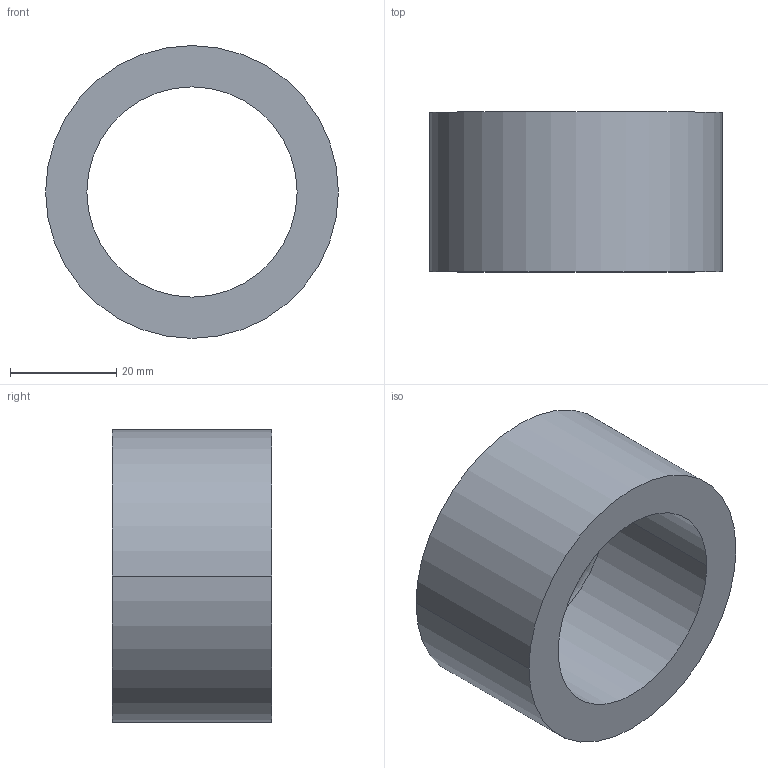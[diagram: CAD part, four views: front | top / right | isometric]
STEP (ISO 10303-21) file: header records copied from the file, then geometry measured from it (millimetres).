
FILE_DESCRIPTION (( 'STEP AP203' ), '1' );
FILE_NAME ('30800.WPP55L39.5.step', '2019-01-23T22:55:19', ( '' ), ( '' ), 'SwSTEP 2.0', 'SolidWorks 2017', '' );
FILE_SCHEMA (( 'CONFIG_CONTROL_DESIGN' ));
Length unit declared in the file: millimetre
Products named in the file (1): 30800.WPP55L39.5
Bounding box: 55 x 30 x 55 mm (x, y, z)
Volume: 34173.2 mm3; surface area: 11026.3 mm2
Topology: 1 solids, 1 shells, 8 faces, 16 edges, 10 vertices
Faces by surface type: cylinder 4, torus 2, plane 2
Entity records: 297 total; most frequent: DIRECTION 46, CARTESIAN_POINT 35, ORIENTED_EDGE 32, AXIS2_PLACEMENT_3D 21, EDGE_CURVE 16, CIRCLE 12, VERTEX_POINT 10, EDGE_LOOP 10
